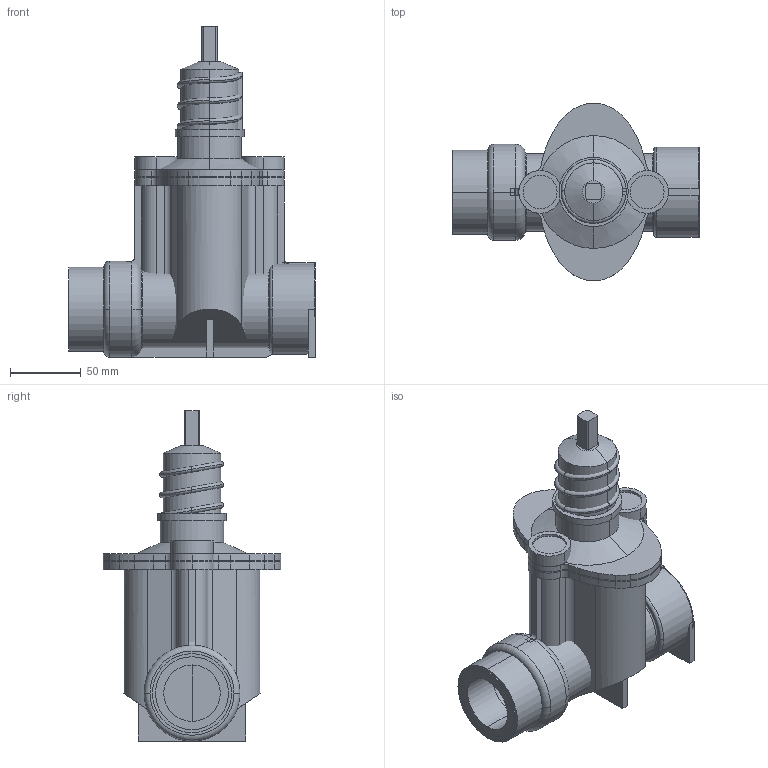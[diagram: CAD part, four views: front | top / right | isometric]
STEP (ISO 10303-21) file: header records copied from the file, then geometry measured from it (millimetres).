
FILE_DESCRIPTION(('STEP AP214'),'1');
FILE_NAME('S:/EK/USER/CAT6/3DHomepage/2520/2520-PN16-DN32.STP','2012-04-25T10:05:15',(' '),(' '),'Spatial InterOp 3D',' ',' ');
FILE_SCHEMA(('automotive_design'));
Length unit declared in the file: millimetre
Products named in the file (38): 3D-Objekt
Bounding box: 175 x 125.81 x 234 mm (x, y, z)
Volume: 1191730 mm3; surface area: 244714.3 mm2
Topology: 38 solids, 38 shells, 316 faces, 730 edges, 495 vertices
Faces by surface type: cylinder 143, plane 135, torus 34, cone 4
Entity records: 12631 total; most frequent: DIRECTION 1859, CARTESIAN_POINT 1579, ORIENTED_EDGE 1460, AXIS2_PLACEMENT_3D 775, EDGE_CURVE 730, VERTEX_POINT 495, CIRCLE 419, STYLED_ITEM 354
